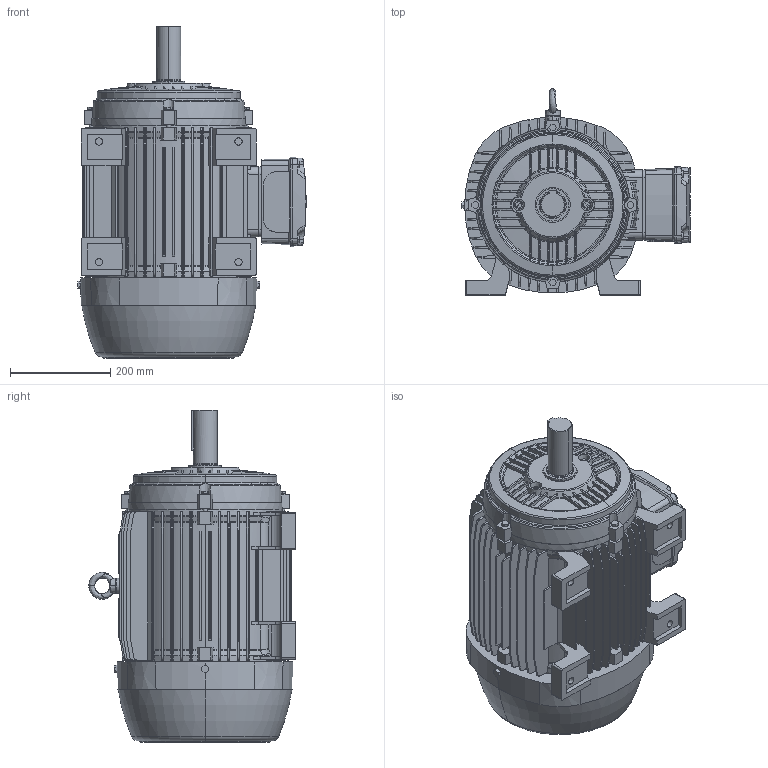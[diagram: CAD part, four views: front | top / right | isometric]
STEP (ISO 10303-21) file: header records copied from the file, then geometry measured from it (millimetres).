
FILE_DESCRIPTION (( 'STEP AP203' ), '1' );
FILE_NAME ('180M_RIGHT.STEP', '2007-06-28T16:35:16', ( '' ), ( '' ), 'SwSTEP 2.0', 'SolidWorks 2006104', '' );
FILE_SCHEMA (( 'CONFIG_CONTROL_DESIGN' ));
Products named in the file (1): 180M_RIGHT
Bounding box: 456 x 412.48 x 663.6 mm (x, y, z)
Volume: 46099908.9 mm3; surface area: 1629480.9 mm2
Topology: 1 solids, 2 shells, 1839 faces, 5234 edges, 3429 vertices
Faces by surface type: plane 895, cylinder 370, cone 241, torus 238, bspline 64, sphere 31
Entity records: 68435 total; most frequent: CARTESIAN_POINT 21849, ORIENTED_EDGE 10460, DIRECTION 9129, EDGE_CURVE 5230, VERTEX_POINT 3429, AXIS2_PLACEMENT_3D 3366, VECTOR 2397, LINE 2397
